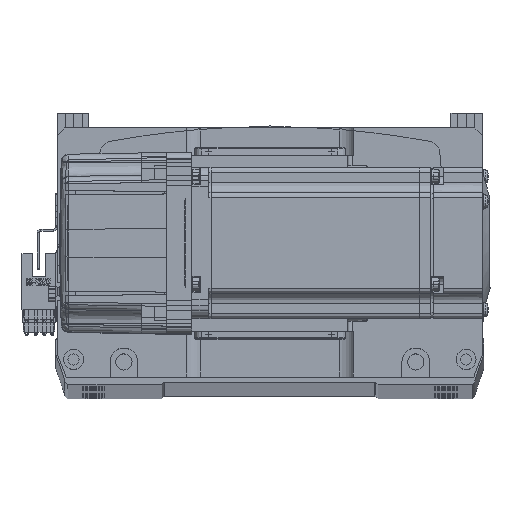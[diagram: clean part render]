
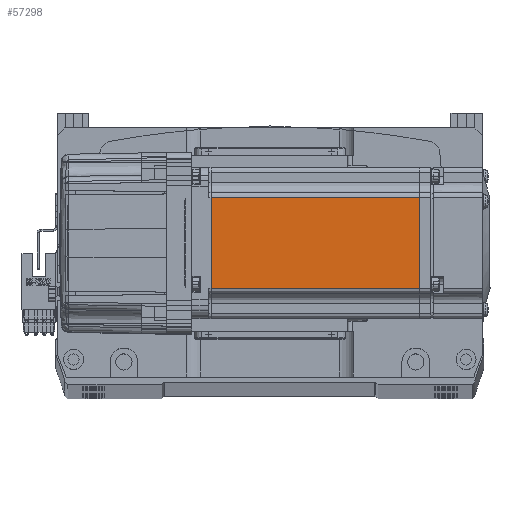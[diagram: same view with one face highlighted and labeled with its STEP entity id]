
A CAD part, top view. The second image highlights one B-rep face of the part: STEP entity #57298.
In plain terms, the highlighted planar face has unit normal (0, 0, 1) as drawn and (0, -1, 0) by its records, which use the part's own axes.
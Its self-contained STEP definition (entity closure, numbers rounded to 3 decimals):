
#1405 = CARTESIAN_POINT ( 'NONE',  ( -90.45, -30., 18. ) ) ;
#2918 = DIRECTION ( 'NONE',  ( 0., 0., -1. ) ) ;
#6760 = CARTESIAN_POINT ( 'NONE',  ( -6.5, -30., 18. ) ) ;
#8306 = LINE ( 'NONE', #61614, #70639 ) ;
#8828 = ORIENTED_EDGE ( 'NONE', *, *, #58186, .T. ) ;
#9721 = VERTEX_POINT ( 'NONE', #12437 ) ;
#12437 = CARTESIAN_POINT ( 'NONE',  ( -7.75, -30., -18. ) ) ;
#13669 = VERTEX_POINT ( 'NONE', #52231 ) ;
#20316 = FACE_OUTER_BOUND ( 'NONE', #22610, .T. ) ;
#22610 = EDGE_LOOP ( 'NONE', ( #8828, #33397, #30864, #33674 ) ) ;
#22971 = DIRECTION ( 'NONE',  ( 1., 0., 0. ) ) ;
#28742 = DIRECTION ( 'NONE',  ( -1., 0., 0. ) ) ;
#30233 = CARTESIAN_POINT ( 'NONE',  ( -90.45, -30., -25. ) ) ;
#30864 = ORIENTED_EDGE ( 'NONE', *, *, #38221, .T. ) ;
#31567 = EDGE_CURVE ( 'NONE', #13669, #65327, #51877, .T. ) ;
#33397 = ORIENTED_EDGE ( 'NONE', *, *, #31567, .T. ) ;
#33633 = VECTOR ( 'NONE', #46932, 1000. ) ;
#33674 = ORIENTED_EDGE ( 'NONE', *, *, #34081, .T. ) ;
#34081 = EDGE_CURVE ( 'NONE', #68330, #9721, #8306, .T. ) ;
#35480 = VECTOR ( 'NONE', #28742, 1000. ) ;
#35788 = PLANE ( 'NONE',  #48983 ) ;
#37945 = LINE ( 'NONE', #30233, #33633 ) ;
#38221 = EDGE_CURVE ( 'NONE', #65327, #68330, #37945, .T. ) ;
#42062 = DIRECTION ( 'NONE',  ( 0., -1., 0. ) ) ;
#46932 = DIRECTION ( 'NONE',  ( 0., 0., -1. ) ) ;
#48983 = AXIS2_PLACEMENT_3D ( 'NONE', #63761, #42062, #2918 ) ;
#51465 = VECTOR ( 'NONE', #65416, 1000. ) ;
#51877 = LINE ( 'NONE', #6760, #35480 ) ;
#52231 = CARTESIAN_POINT ( 'NONE',  ( -7.75, -30., 18. ) ) ;
#54993 = CARTESIAN_POINT ( 'NONE',  ( -7.75, -30., -25. ) ) ;
#57298 = ADVANCED_FACE ( 'NONE', ( #20316 ), #35788, .T. ) ;
#58186 = EDGE_CURVE ( 'NONE', #9721, #13669, #66202, .T. ) ;
#61614 = CARTESIAN_POINT ( 'NONE',  ( -6.5, -30., -18. ) ) ;
#63761 = CARTESIAN_POINT ( 'NONE',  ( -6.5, -30., -25. ) ) ;
#65327 = VERTEX_POINT ( 'NONE', #1405 ) ;
#65416 = DIRECTION ( 'NONE',  ( 0., 0., 1. ) ) ;
#66202 = LINE ( 'NONE', #54993, #51465 ) ;
#66697 = CARTESIAN_POINT ( 'NONE',  ( -90.45, -30., -18. ) ) ;
#68330 = VERTEX_POINT ( 'NONE', #66697 ) ;
#70639 = VECTOR ( 'NONE', #22971, 1000. ) ;
